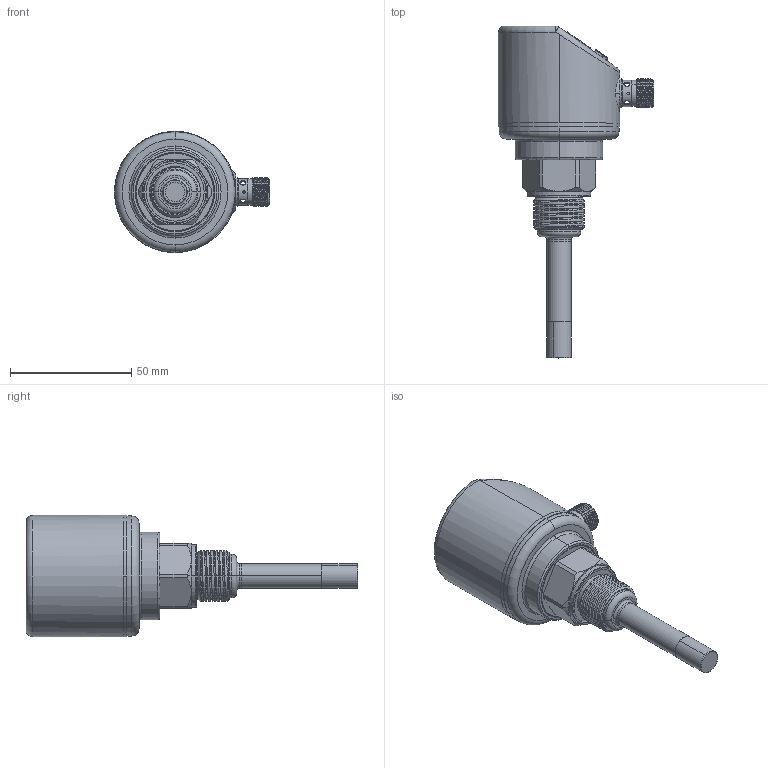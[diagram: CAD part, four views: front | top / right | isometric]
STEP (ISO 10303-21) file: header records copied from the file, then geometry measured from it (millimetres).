
FILE_DESCRIPTION (( 'STEP AP214' ), '1' );
FILE_NAME ('BFT2X37-50-J.STEP', '2026-07-31T03:11:41', ( '' ), ( '' ), 'SwSTEP 2.0', 'SolidWorks 2023', '' );
FILE_SCHEMA (( 'AUTOMOTIVE_DESIGN' ));
Length unit declared in the file: millimetre
Products named in the file (11): BFT2X37-50-J; 探头外螺纹G1-4; PVC密封垫; 探头外螺纹; 防水接头壳体1_默认<按加工>; 压力传感器探头; 123; 压力显示罩; 压力上盖; 按键帽; 热式流量加长管
Assembly tree (12 placements, depth 3):
  BFT2X37-50-J
    压力上盖
    压力显示罩
    防水接头壳体1_默认<按加工>
    按键帽  x3
    PVC密封垫
    压力传感器探头
      探头外螺纹G1-4
      探头外螺纹
    123
    热式流量加长管
Bounding box: 64 x 136.9 x 50 mm (x, y, z)
Volume: 31006.4 mm3; surface area: 38027.8 mm2
Topology: 11 solids, 11 shells, 591 faces, 1401 edges, 871 vertices
Faces by surface type: cylinder 269, plane 147, cone 117, torus 32, bspline 22, sphere 4
Entity records: 22029 total; most frequent: CARTESIAN_POINT 9159, DIRECTION 2668, ORIENTED_EDGE 2618, EDGE_CURVE 1309, AXIS2_PLACEMENT_3D 1052, VERTEX_POINT 825, EDGE_LOOP 634, VECTOR 564
